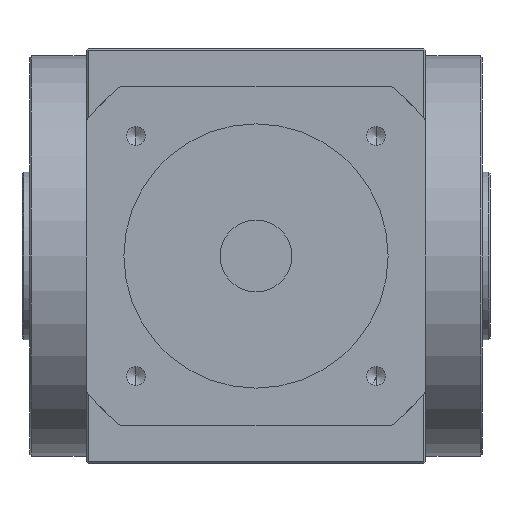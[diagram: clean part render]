
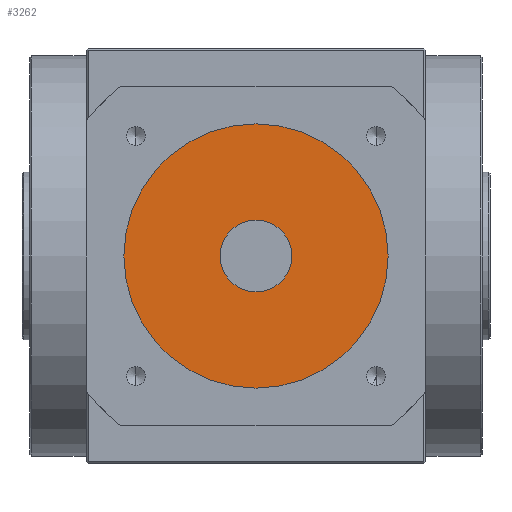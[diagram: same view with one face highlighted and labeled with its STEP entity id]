
A CAD part, front view. The second image highlights one B-rep face of the part: STEP entity #3262.
In plain terms, the highlighted planar face has unit normal (0, -1, 0).
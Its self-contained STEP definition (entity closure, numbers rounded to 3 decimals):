
#11 = EDGE_CURVE ( 'NONE', #4556, #7082, #6475, .T. ) ;
#248 = DIRECTION ( 'NONE',  ( 0., -1., 0. ) ) ;
#446 = EDGE_CURVE ( 'NONE', #6754, #3978, #6459, .T. ) ;
#642 = CIRCLE ( 'NONE', #2996, 35. ) ;
#756 = PLANE ( 'NONE',  #1335 ) ;
#1141 = FACE_OUTER_BOUND ( 'NONE', #5633, .T. ) ;
#1335 = AXIS2_PLACEMENT_3D ( 'NONE', #3075, #6338, #1375 ) ;
#1375 = DIRECTION ( 'NONE',  ( 0., 0., -1. ) ) ;
#1495 = CARTESIAN_POINT ( 'NONE',  ( 0., -189., 35. ) ) ;
#2038 = CARTESIAN_POINT ( 'NONE',  ( 0., -189., -35. ) ) ;
#2296 = DIRECTION ( 'NONE',  ( 0., 0., -1. ) ) ;
#2482 = DIRECTION ( 'NONE',  ( 0., 0., -1. ) ) ;
#2996 = AXIS2_PLACEMENT_3D ( 'NONE', #6321, #248, #2482 ) ;
#3054 = CIRCLE ( 'NONE', #6903, 9.5 ) ;
#3075 = CARTESIAN_POINT ( 'NONE',  ( 0., -189., 0. ) ) ;
#3186 = DIRECTION ( 'NONE',  ( 0., -1., 0. ) ) ;
#3262 = ADVANCED_FACE ( 'NONE', ( #1141, #5282 ), #756, .T. ) ;
#3276 = ORIENTED_EDGE ( 'NONE', *, *, #11, .T. ) ;
#3459 = EDGE_CURVE ( 'NONE', #7082, #4556, #3054, .T. ) ;
#3703 = CARTESIAN_POINT ( 'NONE',  ( 0., -189., 0. ) ) ;
#3829 = AXIS2_PLACEMENT_3D ( 'NONE', #3944, #5951, #7056 ) ;
#3944 = CARTESIAN_POINT ( 'NONE',  ( 0., -189., 0. ) ) ;
#3978 = VERTEX_POINT ( 'NONE', #1495 ) ;
#4161 = ORIENTED_EDGE ( 'NONE', *, *, #6565, .T. ) ;
#4556 = VERTEX_POINT ( 'NONE', #6090 ) ;
#5040 = EDGE_LOOP ( 'NONE', ( #3276, #5853 ) ) ;
#5282 = FACE_BOUND ( 'NONE', #5040, .T. ) ;
#5436 = ORIENTED_EDGE ( 'NONE', *, *, #446, .T. ) ;
#5633 = EDGE_LOOP ( 'NONE', ( #5436, #4161 ) ) ;
#5853 = ORIENTED_EDGE ( 'NONE', *, *, #3459, .T. ) ;
#5951 = DIRECTION ( 'NONE',  ( 0., 1., 0. ) ) ;
#6090 = CARTESIAN_POINT ( 'NONE',  ( 0., -189., -9.5 ) ) ;
#6321 = CARTESIAN_POINT ( 'NONE',  ( 0., -189., 0. ) ) ;
#6338 = DIRECTION ( 'NONE',  ( 0., -1., 0. ) ) ;
#6459 = CIRCLE ( 'NONE', #6927, 35. ) ;
#6475 = CIRCLE ( 'NONE', #3829, 9.5 ) ;
#6489 = DIRECTION ( 'NONE',  ( 0., 0., -1. ) ) ;
#6491 = DIRECTION ( 'NONE',  ( 0., 1., 0. ) ) ;
#6565 = EDGE_CURVE ( 'NONE', #3978, #6754, #642, .T. ) ;
#6754 = VERTEX_POINT ( 'NONE', #2038 ) ;
#6774 = CARTESIAN_POINT ( 'NONE',  ( 0., -189., 9.5 ) ) ;
#6903 = AXIS2_PLACEMENT_3D ( 'NONE', #6997, #6491, #2296 ) ;
#6927 = AXIS2_PLACEMENT_3D ( 'NONE', #3703, #3186, #6489 ) ;
#6997 = CARTESIAN_POINT ( 'NONE',  ( 0., -189., 0. ) ) ;
#7056 = DIRECTION ( 'NONE',  ( 0., 0., -1. ) ) ;
#7082 = VERTEX_POINT ( 'NONE', #6774 ) ;
